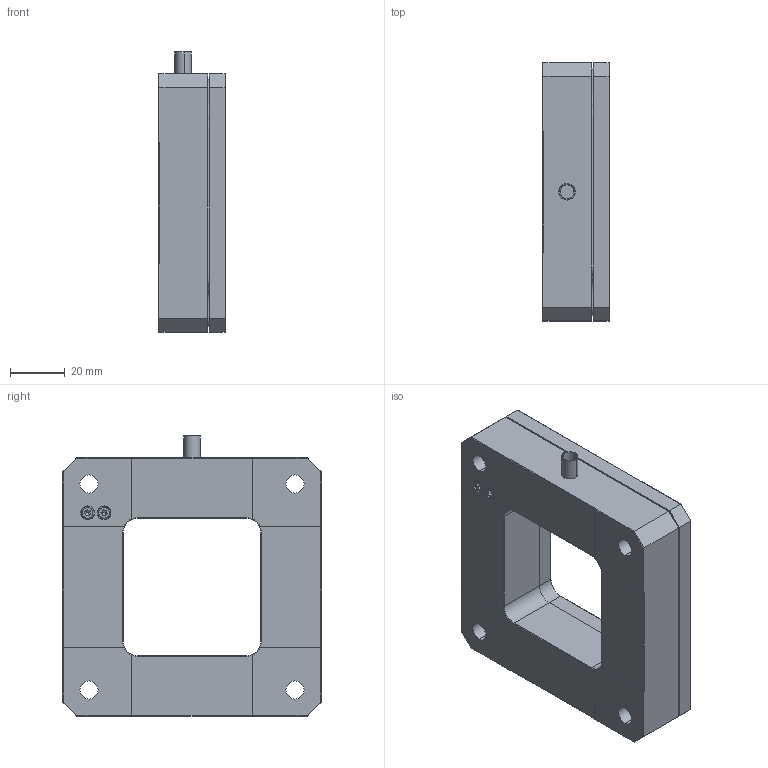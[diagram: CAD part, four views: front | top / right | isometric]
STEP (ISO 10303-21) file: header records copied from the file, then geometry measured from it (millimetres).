
FILE_DESCRIPTION (( 'STEP AP214' ), '1' );
FILE_NAME ('XD107.XY100Z80S-B1蚾饜芞-2025.07.01.STEP', '2025-07-02T00:49:09', ( 'Windows User' ), ( 'P R C' ), 'SwSTEP 2.0', 'SolidWorks 2016', '' );
FILE_SCHEMA (( 'AUTOMOTIVE_DESIGN' ));
Length unit declared in the file: millimetre
Products named in the file (1): XD107.XY100Z80S-B1蚾饜芞-2025.07.01
Bounding box: 24.5 x 94 x 102 mm (x, y, z)
Volume: 145362.2 mm3; surface area: 41697 mm2
Topology: 2 solids, 4 shells, 301 faces, 756 edges, 476 vertices
Faces by surface type: plane 162, cylinder 98, cone 33, torus 8
Entity records: 12091 total; most frequent: DIRECTION 1613, CARTESIAN_POINT 1585, ORIENTED_EDGE 1496, EDGE_CURVE 748, AXIS2_PLACEMENT_3D 580, VERTEX_POINT 476, VECTOR 453, LINE 453
